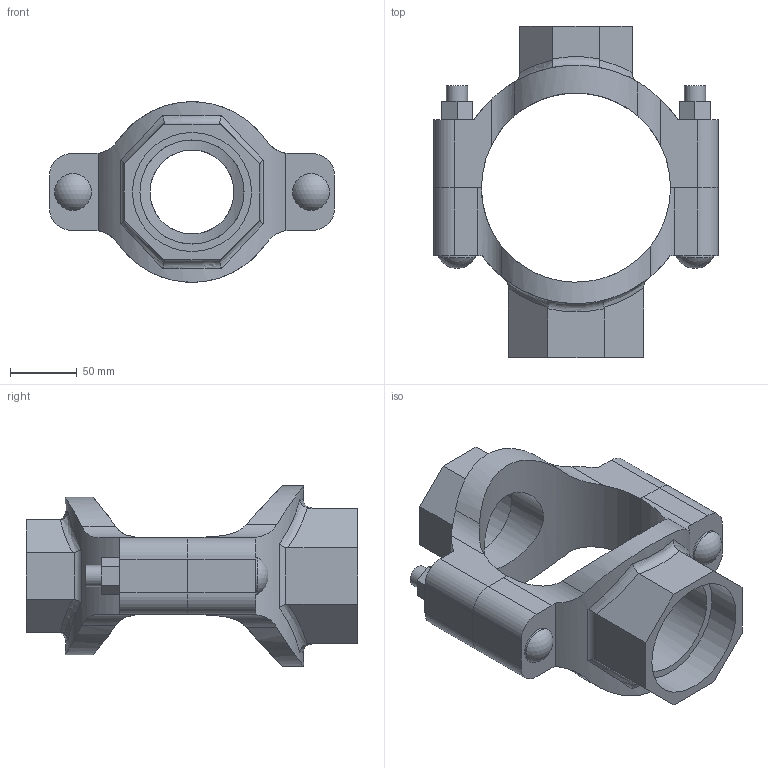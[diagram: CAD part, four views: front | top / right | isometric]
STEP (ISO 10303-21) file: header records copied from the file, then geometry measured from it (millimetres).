
FILE_DESCRIPTION(/* description */ ('VIC MECH-T BRANCH OUTLET CROSS STYLE 920N (THD)','CAx-IF Rec.Pracs.---Representation and Presentation of Product Manufacturing Information (PMI)---4.0---2014-10-13'),/* implementation_level */ '2;1');
FILE_NAME(/* name */ 'C:\Users\Vjadhav\AppData\Roaming\Autodesk\ApplicationPlugins\Back Up\Victaulic_IPS_Mechanical-Cross Outlet_Style 920N (FPT)\Victaulic_IPS_Mechanical-Cross Outlet_05.0x02.5 (76.1)x03.0 (125x65x80).stp',/* time_stamp */ '2020-08-06T18:59:20+05:00',/* author */ ('Vjadhav'),/* organization */ ('Victaulic'),/* preprocessor_version */ 'ST-DEVELOPER v17.2',/* originating_system */ 'Autodesk Inventor 2019',/* authorisation */ '');
FILE_SCHEMA (('AP242_MANAGED_MODEL_BASED_3D_ENGINEERING_MIM_LF { 1 0 10303 442 1 1 4 }'));
Length unit declared in the file: inch
Products named in the file (3): 920NT-05.0x02.5 (76.1)x03.0; 920T-05.0x02.5 (76.1); 920T-05.0x03.0
Assembly tree (2 placements, depth 2):
  920NT-05.0x02.5 (76.1)x03.0
    920T-05.0x02.5 (76.1)
    920T-05.0x03.0
Bounding box: 212.85 x 247.65 x 134.77 mm (x, y, z)
Volume: 1043950.4 mm3; surface area: 187018.2 mm2
Topology: 2 solids, 2 shells, 130 faces, 344 edges, 232 vertices
Faces by surface type: plane 68, cylinder 48, bspline 8, torus 4, sphere 2
Full cylindrical faces by diameter (mm): 15.875 x4, 27.496 x2, 62.738 x1, 76.2 x1, 77.787 x1, 88.9 x1
Entity records: 5214 total; most frequent: CARTESIAN_POINT 1755, ORIENTED_EDGE 688, DIRECTION 638, EDGE_CURVE 344, VERTEX_POINT 232, AXIS2_PLACEMENT_3D 227, LINE 184, VECTOR 184
